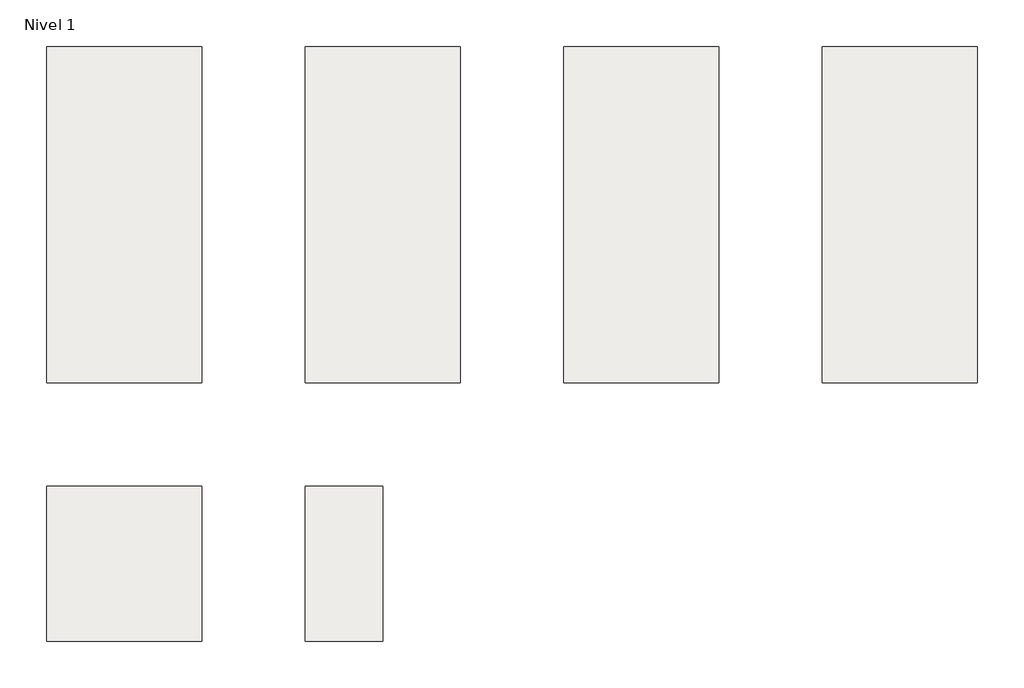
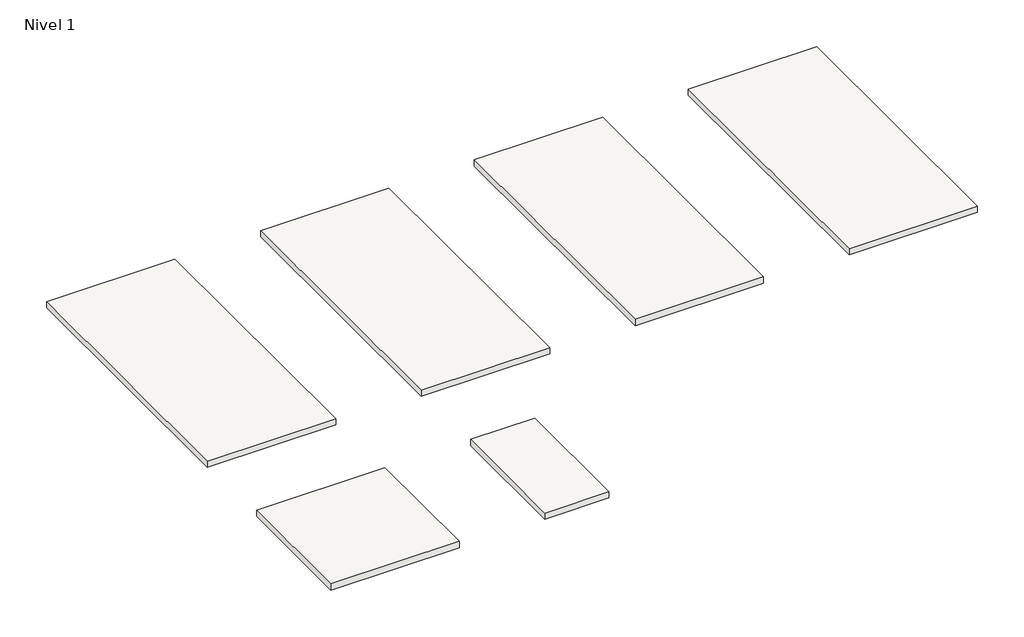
# One storey: 6 slabs.
"""IFC4 building model written with IfcOpenShell, lengths in millimetres."""

import ifcopenshell
import ifcopenshell.guid

model = None  # the IFC model being written
_history = None  # IfcOwnerHistory: only IFC2X3 demands one
_inside = {}  # id of a spatial element -> (the spatial element, [elements in it])
_under = {}  # id of a project, library or spatial element -> (it, [spatial elements below it])
_declared = {}  # id of a project -> (the project, [libraries it declares])
_typed = {}  # id of a type object -> (the type object, [elements of that type])
_made_of = {}  # id of a material, layer set ... -> (it, [elements and type objects made of it])


def new_model(schema):
    """Start an empty IFC model of exactly this schema.

    Asked for "IFC4X3", IfcOpenShell would pick the latest addendum, in which some entities
    have other attributes; the version numbers below select the first issue.
    IFC2X3 requires an IfcOwnerHistory on every rooted entity: one is made here for all.
    """
    global model, _history
    if schema == "IFC4X3":
        model = ifcopenshell.file(schema_version=(4, 3, 0, 0))
    else:
        model = ifcopenshell.file(schema=schema)
    _inside.clear()
    _under.clear()
    _declared.clear()
    _typed.clear()
    _made_of.clear()
    _history = None
    if model.schema == "IFC2X3":
        org = make("IfcOrganization", Name="unknown")
        user = make(
            "IfcPersonAndOrganization",
            ThePerson=make("IfcPerson", FamilyName="unknown"),
            TheOrganization=org,
        )
        app = make(
            "IfcApplication",
            ApplicationDeveloper=org,
            Version="unknown",
            ApplicationFullName="unknown",
            ApplicationIdentifier="unknown",
        )
        _history = make(
            "IfcOwnerHistory",
            OwningUser=user,
            OwningApplication=app,
            ChangeAction="ADDED",
            CreationDate=0,
        )
    return model


def make(cls, **values):
    """One entity of the class cls with the attributes given. An attribute that is None is left unset."""
    return model.create_entity(
        cls, **{name: value for name, value in values.items() if value is not None}
    )


def rooted(cls, **values):
    """An entity with a GlobalId (a new one), such as an element, a storey or a relation."""
    return make(cls, GlobalId=ifcopenshell.guid.new(), OwnerHistory=_history, **values)


def si_unit(unit_type, name, prefix=None):
    """IfcSIUnit, for example si_unit("LENGTHUNIT", "METRE", prefix="MILLI")."""
    return make("IfcSIUnit", UnitType=unit_type, Prefix=prefix, Name=name)


def assignment(units):
    """IfcUnitAssignment: the units of a project."""
    return None if units is None else make("IfcUnitAssignment", Units=units)


def point(xyz):
    """IfcCartesianPoint."""
    return None if xyz is None else make("IfcCartesianPoint", Coordinates=xyz)


def direction(xyz):
    """IfcDirection."""
    return None if xyz is None else make("IfcDirection", DirectionRatios=xyz)


def frame(location, z_axis=None, x_axis=None):
    """IfcAxis2Placement3D, a coordinate frame: its origin and axes. An axis left out is left unset."""
    return make(
        "IfcAxis2Placement3D",
        Location=point(location),
        Axis=direction(z_axis),
        RefDirection=direction(x_axis),
    )


def origin():
    """The frame at (0, 0, 0) with its axes left unset."""
    return frame((0.0, 0.0, 0.0))


def place(relative_to, where):
    """IfcLocalPlacement: puts the frame where relative to a parent placement (None: the world)."""
    return make(
        "IfcLocalPlacement", PlacementRelTo=relative_to, RelativePlacement=where
    )


def context(
    kind, dimensions, precision=None, world=None, true_north=None, identifier=None
):
    """IfcGeometricRepresentationContext, for example the 3D "Model" context."""
    return make(
        "IfcGeometricRepresentationContext",
        ContextIdentifier=identifier,
        ContextType=kind,
        CoordinateSpaceDimension=dimensions,
        Precision=precision,
        WorldCoordinateSystem=world,
        TrueNorth=true_north,
    )


def project(units=None, contexts=None):
    """IfcProject with its units and contexts."""
    return rooted(
        "IfcProject",
        Name="project",
        RepresentationContexts=contexts,
        UnitsInContext=assignment(units),
    )


def spatial(cls, under=None, at=None, **own):
    """A site, building, storey or space (cls), placed at a placement, below another one or the project."""
    s = rooted(cls, ObjectPlacement=at, **own)
    if under is not None:
        _under.setdefault(under.id(), (under, []))[1].append(s)
    return s


def polyline(points):
    """IfcPolyline through the points."""
    return make("IfcPolyline", Points=[point(p) for p in points])


def outline(outer, holes=None, kind="AREA"):
    """IfcArbitraryClosedProfileDef: a profile drawn as a closed curve; with holes, ...WithVoids."""
    if holes is None:
        return make("IfcArbitraryClosedProfileDef", ProfileType=kind, OuterCurve=outer)
    return make(
        "IfcArbitraryProfileDefWithVoids",
        ProfileType=kind,
        OuterCurve=outer,
        InnerCurves=holes,
    )


def extrude(swept, where, along, depth):
    """IfcExtrudedAreaSolid: the profile swept, set in the frame where, extruded along a direction by depth."""
    return make(
        "IfcExtrudedAreaSolid",
        SweptArea=swept,
        Position=where,
        ExtrudedDirection=direction(along),
        Depth=depth,
    )


def shape(context_of_items, identifier, shape_type, items):
    """IfcShapeRepresentation: the items that make up one representation, for example the "Body"."""
    return make(
        "IfcShapeRepresentation",
        ContextOfItems=context_of_items,
        RepresentationIdentifier=identifier,
        RepresentationType=shape_type,
        Items=items,
    )


def made_of(thing, what):
    """Note that an element or type object is made of a material, layer set ...; save() writes the relation."""
    if what is not None:
        _made_of.setdefault(what.id(), (what, []))[1].append(thing)
    return thing


def element(
    cls,
    number,
    at=None,
    inside=None,
    cuts=None,
    type_object=None,
    material=None,
    context=None,
    identifier="Body",
    shape_type=None,
    held_by="IfcProductDefinitionShape",
    body=None,
    shapes=None,
    **own,
):
    """One element of the class cls, such as IfcWall. Its Tag is "e" and its number.

    at: its placement. inside: the storey or other place that contains it. cuts: it is an
    opening in that element (IfcRelVoidsElement). A single representation is given by context,
    identifier, shape_type and body (its items); several are given by shapes. held_by: the class
    of the entity that holds the representations. save() writes the other relations.
    """
    e = rooted(cls, Tag="e%d" % number, ObjectPlacement=at, **own)
    if body is not None:
        shapes = [shape(context, identifier, shape_type, body)]
    if shapes is not None:
        e.Representation = make(held_by, Representations=shapes)
    if inside is not None:
        _inside.setdefault(inside.id(), (inside, []))[1].append(e)
    if cuts is not None:
        rooted(
            "IfcRelVoidsElement", RelatingBuildingElement=cuts, RelatedOpeningElement=e
        )
    if type_object is not None:
        _typed.setdefault(type_object.id(), (type_object, []))[1].append(e)
    return made_of(e, material)


def aggregate(whole, parts):
    """IfcRelAggregates: a whole, such as a stair, and the parts it consists of."""
    return rooted("IfcRelAggregates", RelatingObject=whole, RelatedObjects=parts)


def save(model, path):
    """Write the relations noted so far, then the file.

    IfcRelAggregates (storeys below a building ...), IfcRelContainedInSpatialStructure (elements
    in a storey), IfcRelDefinesByType, IfcRelAssociatesMaterial and IfcRelDeclares: one each for
    every whole, place, type object, material and project.
    """
    for whole, parts in _under.values():
        aggregate(whole, parts)
    for where, things in _inside.values():
        rooted(
            "IfcRelContainedInSpatialStructure",
            RelatedElements=things,
            RelatingStructure=where,
        )
    for kind, things in _typed.values():
        rooted("IfcRelDefinesByType", RelatedObjects=things, RelatingType=kind)
    for what, things in _made_of.values():
        rooted("IfcRelAssociatesMaterial", RelatedObjects=things, RelatingMaterial=what)
    for by, libraries in _declared.values():
        rooted("IfcRelDeclares", RelatingContext=by, RelatedDefinitions=libraries)
    model.write(path)


model = new_model("IFC4")

# Units and contexts
model_context = context("Model", 3, world=origin())
ifc_project = project(units=[si_unit("LENGTHUNIT", "METRE", prefix="MILLI")], contexts=[model_context])

# Site, building, storey
site = spatial("IfcSite", under=ifc_project)
building = spatial("IfcBuilding", under=site)
storey = spatial("IfcBuildingStorey", under=building, Name="Nivel 1", Elevation=0.0)

# Slabs
placement = place(None, origin())
element("IfcSlab", 1, ObjectType="Corinto 120X120 5,6", at=placement, inside=storey, context=model_context, shape_type="SweptSolid", body=[
    extrude(outline(polyline([(4000.0, -800.0), (5200.0, -800.0), (5200.0, -2000.0), (4000.0, -2000.0), (4000.0, -800.0)])), frame((0.0, 0.0, -60.6), z_axis=(0.0, 0.0, 1.0), x_axis=(1.0, 0.0, 0.0)), (0.0, 0.0, 1.0), 60.6),
])
element("IfcSlab", 2, ObjectType="Corinto 60X120 5,6", at=placement, inside=storey, context=model_context, shape_type="SweptSolid", body=[
    extrude(outline(polyline([(6000.0, -800.0), (6600.0, -800.0), (6600.0, -2000.0), (6000.0, -2000.0), (6000.0, -800.0)])), frame((0.0, 0.0, -60.6), z_axis=(0.0, 0.0, 1.0), x_axis=(1.0, 0.0, 0.0)), (0.0, 0.0, 1.0), 60.6),
])
element("IfcSlab", 3, ObjectType="Corinto Infinity A 120X260 5,6", at=placement, inside=storey, context=model_context, shape_type="SweptSolid", body=[
    extrude(outline(polyline([(4000.0, 2600.0), (5200.0, 2600.0), (5200.0, 0.0), (4000.0, 0.0), (4000.0, 2600.0)])), frame((0.0, 0.0, -60.6), z_axis=(0.0, 0.0, 1.0), x_axis=(1.0, 0.0, 0.0)), (0.0, 0.0, 1.0), 60.6),
])
element("IfcSlab", 4, ObjectType="Corinto Infinity B 120X260 5,6", at=placement, inside=storey, context=model_context, shape_type="SweptSolid", body=[
    extrude(outline(polyline([(6000.0, 2600.0), (7200.0, 2600.0), (7200.0, 0.0), (6000.0, 0.0), (6000.0, 2600.0)])), frame((0.0, 0.0, -60.6), z_axis=(0.0, 0.0, 1.0), x_axis=(1.0, 0.0, 0.0)), (0.0, 0.0, 1.0), 60.6),
])
element("IfcSlab", 5, ObjectType="Corinto Infinity C 120X260 5,6", at=placement, inside=storey, context=model_context, shape_type="SweptSolid", body=[
    extrude(outline(polyline([(8000.0, 2600.0), (9200.0, 2600.0), (9200.0, 0.0), (8000.0, 0.0), (8000.0, 2600.0)])), frame((0.0, 0.0, -60.6), z_axis=(0.0, 0.0, 1.0), x_axis=(1.0, 0.0, 0.0)), (0.0, 0.0, 1.0), 60.6),
])
element("IfcSlab", 6, ObjectType="Corinto Infinity D 120X260 5,6", at=placement, inside=storey, context=model_context, shape_type="SweptSolid", body=[
    extrude(outline(polyline([(10000.0, 2600.0), (11200.0, 2600.0), (11200.0, 0.0), (10000.0, 0.0), (10000.0, 2600.0)])), frame((0.0, 0.0, -60.6), z_axis=(0.0, 0.0, 1.0), x_axis=(1.0, 0.0, 0.0)), (0.0, 0.0, 1.0), 60.6),
])

save(model, "model.ifc")
